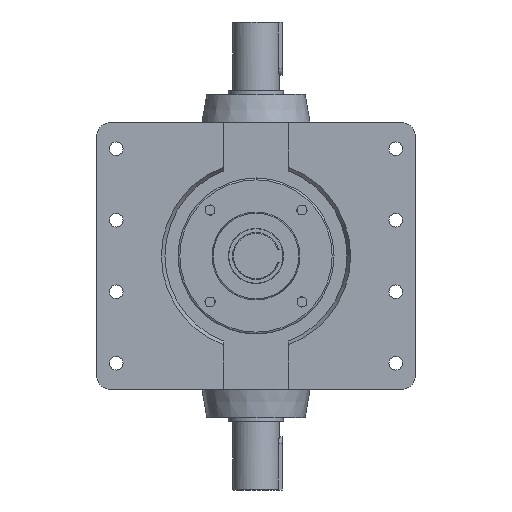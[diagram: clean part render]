
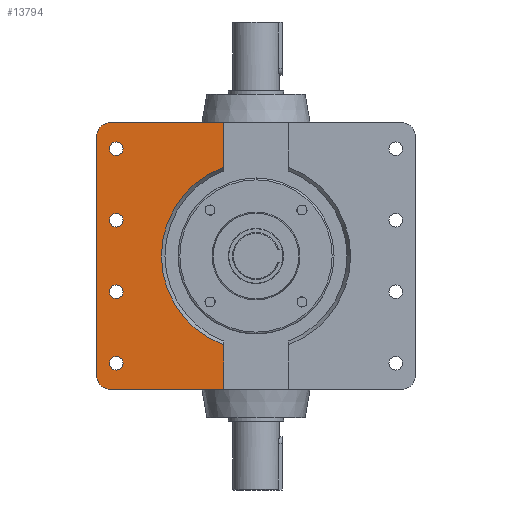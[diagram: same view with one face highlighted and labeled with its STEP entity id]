
A CAD part, front view. The second image highlights one B-rep face of the part: STEP entity #13794.
In plain terms, the highlighted planar face has unit normal (0, -1, 0).
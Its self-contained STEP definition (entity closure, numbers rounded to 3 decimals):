
#47 = LINE ( 'NONE', #14378, #9140 ) ;
#278 = ORIENTED_EDGE ( 'NONE', *, *, #9876, .T. ) ;
#398 = DIRECTION ( 'NONE',  ( 0., -1., 0. ) ) ;
#578 = CIRCLE ( 'NONE', #1007, 10.5 ) ;
#737 = ORIENTED_EDGE ( 'NONE', *, *, #3552, .T. ) ;
#793 = LINE ( 'NONE', #5632, #7826 ) ;
#841 = CARTESIAN_POINT ( 'NONE',  ( -215., -245., -55. ) ) ;
#944 = VERTEX_POINT ( 'NONE', #4270 ) ;
#1007 = AXIS2_PLACEMENT_3D ( 'NONE', #5584, #4375, #14779 ) ;
#1058 = CIRCLE ( 'NONE', #16323, 10.5 ) ;
#1064 = AXIS2_PLACEMENT_3D ( 'NONE', #2382, #3672, #4935 ) ;
#1288 = EDGE_CURVE ( 'NONE', #12244, #944, #793, .T. ) ;
#1301 = CIRCLE ( 'NONE', #13402, 10.5 ) ;
#1386 = DIRECTION ( 'NONE',  ( 0., 0., -1. ) ) ;
#1644 = VECTOR ( 'NONE', #15441, 1000. ) ;
#1687 = CIRCLE ( 'NONE', #10201, 145.543 ) ;
#1922 = CARTESIAN_POINT ( 'NONE',  ( -215., -245., -55. ) ) ;
#2127 = CIRCLE ( 'NONE', #15439, 10.5 ) ;
#2147 = DIRECTION ( 'NONE',  ( 0., 1., 0. ) ) ;
#2190 = EDGE_LOOP ( 'NONE', ( #12938, #2952 ) ) ;
#2359 = EDGE_CURVE ( 'NONE', #11374, #12019, #4347, .T. ) ;
#2382 = CARTESIAN_POINT ( 'NONE',  ( -215., -245., -165. ) ) ;
#2595 = EDGE_CURVE ( 'NONE', #9404, #3406, #5311, .T. ) ;
#2691 = VERTEX_POINT ( 'NONE', #6066 ) ;
#2759 = DIRECTION ( 'NONE',  ( 0., -1., 0. ) ) ;
#2892 = FACE_BOUND ( 'NONE', #2190, .T. ) ;
#2952 = ORIENTED_EDGE ( 'NONE', *, *, #5521, .T. ) ;
#3114 = CARTESIAN_POINT ( 'NONE',  ( -215., -245., -165. ) ) ;
#3265 = DIRECTION ( 'NONE',  ( 0., 0., 1. ) ) ;
#3406 = VERTEX_POINT ( 'NONE', #13957 ) ;
#3497 = CARTESIAN_POINT ( 'NONE',  ( -50., -245., -136.684 ) ) ;
#3524 = ORIENTED_EDGE ( 'NONE', *, *, #11960, .F. ) ;
#3552 = EDGE_CURVE ( 'NONE', #10447, #944, #1687, .T. ) ;
#3553 = CIRCLE ( 'NONE', #8938, 21. ) ;
#3562 = VECTOR ( 'NONE', #3265, 1000. ) ;
#3671 = ORIENTED_EDGE ( 'NONE', *, *, #10251, .T. ) ;
#3672 = DIRECTION ( 'NONE',  ( 0., 1., 0. ) ) ;
#3702 = CARTESIAN_POINT ( 'NONE',  ( -215., -245., -65.5 ) ) ;
#3964 = CARTESIAN_POINT ( 'NONE',  ( -245., -245., 184. ) ) ;
#3994 = CARTESIAN_POINT ( 'NONE',  ( -215., -245., 165. ) ) ;
#4198 = DIRECTION ( 'NONE',  ( 0., 1., 0. ) ) ;
#4223 = PLANE ( 'NONE',  #5941 ) ;
#4270 = CARTESIAN_POINT ( 'NONE',  ( -50., -245., 136.684 ) ) ;
#4307 = ORIENTED_EDGE ( 'NONE', *, *, #16418, .T. ) ;
#4347 = LINE ( 'NONE', #11222, #3562 ) ;
#4375 = DIRECTION ( 'NONE',  ( 0., 1., 0. ) ) ;
#4660 = EDGE_CURVE ( 'NONE', #16795, #10136, #8764, .T. ) ;
#4685 = EDGE_LOOP ( 'NONE', ( #15420, #14969 ) ) ;
#4807 = ORIENTED_EDGE ( 'NONE', *, *, #2359, .F. ) ;
#4935 = DIRECTION ( 'NONE',  ( 0., 0., -1. ) ) ;
#4980 = CARTESIAN_POINT ( 'NONE',  ( -224., -245., 205. ) ) ;
#5311 = LINE ( 'NONE', #8390, #15523 ) ;
#5452 = ORIENTED_EDGE ( 'NONE', *, *, #1288, .F. ) ;
#5521 = EDGE_CURVE ( 'NONE', #12564, #11965, #1301, .T. ) ;
#5584 = CARTESIAN_POINT ( 'NONE',  ( -215., -245., 165. ) ) ;
#5632 = CARTESIAN_POINT ( 'NONE',  ( -50., -245., 305.46 ) ) ;
#5701 = CIRCLE ( 'NONE', #10573, 10.5 ) ;
#5743 = ORIENTED_EDGE ( 'NONE', *, *, #9315, .T. ) ;
#5941 = AXIS2_PLACEMENT_3D ( 'NONE', #10762, #398, #9441 ) ;
#6066 = CARTESIAN_POINT ( 'NONE',  ( -215., -245., 175.5 ) ) ;
#6296 = FACE_BOUND ( 'NONE', #4685, .T. ) ;
#6435 = EDGE_CURVE ( 'NONE', #14152, #10816, #1058, .T. ) ;
#7234 = DIRECTION ( 'NONE',  ( 0., 0., -1. ) ) ;
#7283 = CIRCLE ( 'NONE', #14266, 10.5 ) ;
#7722 = CIRCLE ( 'NONE', #8663, 21. ) ;
#7826 = VECTOR ( 'NONE', #7234, 1000. ) ;
#7832 = ORIENTED_EDGE ( 'NONE', *, *, #2595, .F. ) ;
#7848 = DIRECTION ( 'NONE',  ( 0., 0., -1. ) ) ;
#7992 = DIRECTION ( 'NONE',  ( 0., 1., 0. ) ) ;
#7995 = CIRCLE ( 'NONE', #8640, 10.5 ) ;
#8269 = DIRECTION ( 'NONE',  ( 0., 0., -1. ) ) ;
#8390 = CARTESIAN_POINT ( 'NONE',  ( -245., -245., -205. ) ) ;
#8442 = EDGE_CURVE ( 'NONE', #15879, #2691, #578, .T. ) ;
#8640 = AXIS2_PLACEMENT_3D ( 'NONE', #3994, #11724, #12986 ) ;
#8663 = AXIS2_PLACEMENT_3D ( 'NONE', #14399, #2759, #7848 ) ;
#8764 = CIRCLE ( 'NONE', #1064, 10.5 ) ;
#8905 = CARTESIAN_POINT ( 'NONE',  ( -215., -245., 65.5 ) ) ;
#8938 = AXIS2_PLACEMENT_3D ( 'NONE', #13687, #16173, #16416 ) ;
#9114 = CARTESIAN_POINT ( 'NONE',  ( -215., -245., 44.5 ) ) ;
#9140 = VECTOR ( 'NONE', #14554, 1000. ) ;
#9193 = FACE_OUTER_BOUND ( 'NONE', #12123, .T. ) ;
#9315 = EDGE_CURVE ( 'NONE', #11374, #3406, #3553, .T. ) ;
#9404 = VERTEX_POINT ( 'NONE', #12563 ) ;
#9441 = DIRECTION ( 'NONE',  ( 0., 0., -1. ) ) ;
#9480 = CARTESIAN_POINT ( 'NONE',  ( 0., -245., 0. ) ) ;
#9559 = CARTESIAN_POINT ( 'NONE',  ( -215., -245., -154.5 ) ) ;
#9615 = FACE_BOUND ( 'NONE', #12803, .T. ) ;
#9790 = ORIENTED_EDGE ( 'NONE', *, *, #6435, .T. ) ;
#9876 = EDGE_CURVE ( 'NONE', #10136, #16795, #5701, .T. ) ;
#9924 = DIRECTION ( 'NONE',  ( -1., 0., 0. ) ) ;
#10136 = VERTEX_POINT ( 'NONE', #9559 ) ;
#10201 = AXIS2_PLACEMENT_3D ( 'NONE', #9480, #4198, #15997 ) ;
#10251 = EDGE_CURVE ( 'NONE', #10816, #14152, #2127, .T. ) ;
#10447 = VERTEX_POINT ( 'NONE', #3497 ) ;
#10573 = AXIS2_PLACEMENT_3D ( 'NONE', #3114, #11070, #8269 ) ;
#10599 = LINE ( 'NONE', #12966, #1644 ) ;
#10762 = CARTESIAN_POINT ( 'NONE',  ( -245., -245., -205. ) ) ;
#10816 = VERTEX_POINT ( 'NONE', #3702 ) ;
#11070 = DIRECTION ( 'NONE',  ( 0., 1., 0. ) ) ;
#11222 = CARTESIAN_POINT ( 'NONE',  ( -245., -245., 205. ) ) ;
#11353 = CARTESIAN_POINT ( 'NONE',  ( -50., -245., 205. ) ) ;
#11374 = VERTEX_POINT ( 'NONE', #12878 ) ;
#11447 = EDGE_CURVE ( 'NONE', #10447, #9404, #47, .T. ) ;
#11724 = DIRECTION ( 'NONE',  ( 0., 1., 0. ) ) ;
#11759 = EDGE_CURVE ( 'NONE', #11965, #12564, #7283, .T. ) ;
#11960 = EDGE_CURVE ( 'NONE', #12865, #12244, #10599, .T. ) ;
#11965 = VERTEX_POINT ( 'NONE', #8905 ) ;
#12019 = VERTEX_POINT ( 'NONE', #3964 ) ;
#12123 = EDGE_LOOP ( 'NONE', ( #3524, #4307, #4807, #5743, #7832, #13890, #737, #5452 ) ) ;
#12244 = VERTEX_POINT ( 'NONE', #11353 ) ;
#12269 = DIRECTION ( 'NONE',  ( 0., 1., 0. ) ) ;
#12563 = CARTESIAN_POINT ( 'NONE',  ( -50., -245., -205. ) ) ;
#12564 = VERTEX_POINT ( 'NONE', #9114 ) ;
#12803 = EDGE_LOOP ( 'NONE', ( #278, #15395 ) ) ;
#12865 = VERTEX_POINT ( 'NONE', #4980 ) ;
#12878 = CARTESIAN_POINT ( 'NONE',  ( -245., -245., -184. ) ) ;
#12880 = EDGE_CURVE ( 'NONE', #2691, #15879, #7995, .T. ) ;
#12938 = ORIENTED_EDGE ( 'NONE', *, *, #11759, .T. ) ;
#12966 = CARTESIAN_POINT ( 'NONE',  ( -245., -245., 205. ) ) ;
#12986 = DIRECTION ( 'NONE',  ( 0., 0., -1. ) ) ;
#13092 = FACE_BOUND ( 'NONE', #16353, .T. ) ;
#13182 = DIRECTION ( 'NONE',  ( 0., 0., -1. ) ) ;
#13239 = DIRECTION ( 'NONE',  ( 0., 1., 0. ) ) ;
#13402 = AXIS2_PLACEMENT_3D ( 'NONE', #15922, #13239, #13182 ) ;
#13629 = DIRECTION ( 'NONE',  ( 0., 0., -1. ) ) ;
#13687 = CARTESIAN_POINT ( 'NONE',  ( -224., -245., -184. ) ) ;
#13794 = ADVANCED_FACE ( 'NONE', ( #6296, #2892, #13092, #9615, #9193 ), #4223, .T. ) ;
#13890 = ORIENTED_EDGE ( 'NONE', *, *, #11447, .F. ) ;
#13957 = CARTESIAN_POINT ( 'NONE',  ( -224., -245., -205. ) ) ;
#14152 = VERTEX_POINT ( 'NONE', #15291 ) ;
#14266 = AXIS2_PLACEMENT_3D ( 'NONE', #15777, #7992, #1386 ) ;
#14378 = CARTESIAN_POINT ( 'NONE',  ( -50., -245., 305.46 ) ) ;
#14399 = CARTESIAN_POINT ( 'NONE',  ( -224., -245., 184. ) ) ;
#14429 = CARTESIAN_POINT ( 'NONE',  ( -215., -245., -175.5 ) ) ;
#14554 = DIRECTION ( 'NONE',  ( 0., 0., -1. ) ) ;
#14779 = DIRECTION ( 'NONE',  ( 0., 0., -1. ) ) ;
#14969 = ORIENTED_EDGE ( 'NONE', *, *, #8442, .T. ) ;
#15139 = DIRECTION ( 'NONE',  ( 0., 0., -1. ) ) ;
#15291 = CARTESIAN_POINT ( 'NONE',  ( -215., -245., -44.5 ) ) ;
#15395 = ORIENTED_EDGE ( 'NONE', *, *, #4660, .T. ) ;
#15420 = ORIENTED_EDGE ( 'NONE', *, *, #12880, .T. ) ;
#15439 = AXIS2_PLACEMENT_3D ( 'NONE', #1922, #12269, #13629 ) ;
#15441 = DIRECTION ( 'NONE',  ( 1., 0., 0. ) ) ;
#15523 = VECTOR ( 'NONE', #9924, 1000. ) ;
#15777 = CARTESIAN_POINT ( 'NONE',  ( -215., -245., 55. ) ) ;
#15816 = CARTESIAN_POINT ( 'NONE',  ( -215., -245., 154.5 ) ) ;
#15879 = VERTEX_POINT ( 'NONE', #15816 ) ;
#15922 = CARTESIAN_POINT ( 'NONE',  ( -215., -245., 55. ) ) ;
#15997 = DIRECTION ( 'NONE',  ( 0., 0., 1. ) ) ;
#16173 = DIRECTION ( 'NONE',  ( 0., -1., 0. ) ) ;
#16323 = AXIS2_PLACEMENT_3D ( 'NONE', #841, #2147, #15139 ) ;
#16353 = EDGE_LOOP ( 'NONE', ( #9790, #3671 ) ) ;
#16416 = DIRECTION ( 'NONE',  ( 0., 0., -1. ) ) ;
#16418 = EDGE_CURVE ( 'NONE', #12865, #12019, #7722, .T. ) ;
#16795 = VERTEX_POINT ( 'NONE', #14429 ) ;
